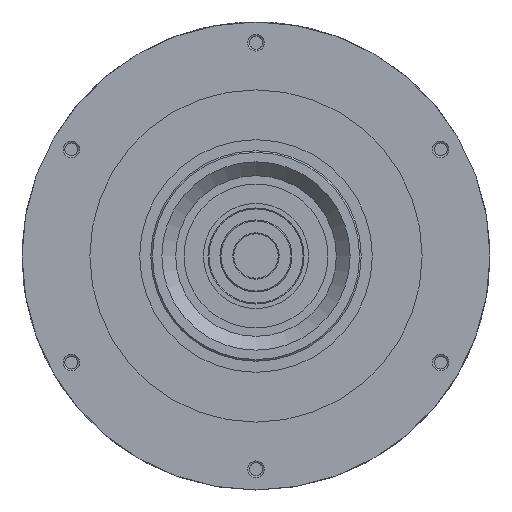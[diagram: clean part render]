
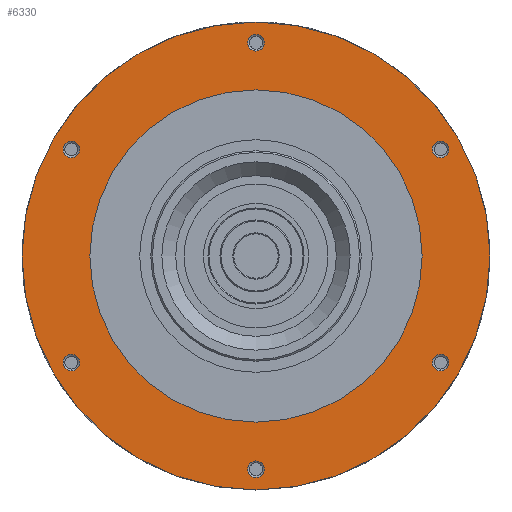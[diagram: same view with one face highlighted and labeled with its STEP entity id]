
A CAD part, left-side view. The second image highlights one B-rep face of the part: STEP entity #6330.
In plain terms, the highlighted planar face has unit normal (-1, 0, 0).
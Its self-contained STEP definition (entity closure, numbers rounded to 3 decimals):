
#6233=CARTESIAN_POINT('',(-50.8,83.373,-47.478));
#6234=VERTEX_POINT('',#6233);
#6235=CARTESIAN_POINT('',(-50.8,4.534,-26.353));
#6236=VERTEX_POINT('',#6235);
#6237=CARTESIAN_POINT('',(-50.8,41.123,-47.478));
#6238=DIRECTION('',(1.,0.,0.));
#6239=DIRECTION('',(0.,1.,0.));
#6240=AXIS2_PLACEMENT_3D('',#6237,#6238,#6239);
#6241=CIRCLE('',#6240,42.25);
#6242=EDGE_CURVE('',#6234,#6236,#6241,.T.);
#6243=ORIENTED_EDGE('',*,*,#6242,.F.);
#6244=EDGE_CURVE('',#6236,#6234,#6241,.T.);
#6245=ORIENTED_EDGE('',*,*,#6244,.F.);
#6246=EDGE_LOOP('',(#6243,#6245));
#6247=FACE_OUTER_BOUND('',#6246,.T.);
#6248=CARTESIAN_POINT('',(-50.8,75.215,-65.429));
#6249=VERTEX_POINT('',#6248);
#6250=CARTESIAN_POINT('',(-50.8,74.465,-66.728));
#6251=DIRECTION('',(1.,0.,0.));
#6252=DIRECTION('',(0.,0.5,0.866));
#6253=AXIS2_PLACEMENT_3D('',#6250,#6251,#6252);
#6254=CIRCLE('',#6253,1.5);
#6255=EDGE_CURVE('',#6249,#6249,#6254,.T.);
#6256=ORIENTED_EDGE('',*,*,#6255,.T.);
#6257=EDGE_LOOP('',(#6256));
#6258=FACE_BOUND('',#6257,.T.);
#6259=CARTESIAN_POINT('',(-50.8,8.531,-68.027));
#6260=VERTEX_POINT('',#6259);
#6261=CARTESIAN_POINT('',(-50.8,7.781,-66.728));
#6262=DIRECTION('',(1.,0.,0.));
#6263=DIRECTION('',(0.,0.5,-0.866));
#6264=AXIS2_PLACEMENT_3D('',#6261,#6262,#6263);
#6265=CIRCLE('',#6264,1.5);
#6266=EDGE_CURVE('',#6260,#6260,#6265,.T.);
#6267=ORIENTED_EDGE('',*,*,#6266,.T.);
#6268=EDGE_LOOP('',(#6267));
#6269=FACE_BOUND('',#6268,.T.);
#6270=CARTESIAN_POINT('',(-50.8,39.623,-8.978));
#6271=VERTEX_POINT('',#6270);
#6272=CARTESIAN_POINT('',(-50.8,41.123,-8.978));
#6273=DIRECTION('',(1.,0.,0.));
#6274=DIRECTION('',(0.,-1.,0.));
#6275=AXIS2_PLACEMENT_3D('',#6272,#6273,#6274);
#6276=CIRCLE('',#6275,1.5);
#6277=EDGE_CURVE('',#6271,#6271,#6276,.T.);
#6278=ORIENTED_EDGE('',*,*,#6277,.T.);
#6279=EDGE_LOOP('',(#6278));
#6280=FACE_BOUND('',#6279,.T.);
#6281=CARTESIAN_POINT('',(-50.8,71.123,-47.478));
#6282=VERTEX_POINT('',#6281);
#6283=CARTESIAN_POINT('',(-50.8,41.123,-47.478));
#6284=DIRECTION('',(1.,0.,0.));
#6285=DIRECTION('',(0.,1.,0.));
#6286=AXIS2_PLACEMENT_3D('',#6283,#6284,#6285);
#6287=CIRCLE('',#6286,30.);
#6288=EDGE_CURVE('',#6282,#6282,#6287,.T.);
#6289=ORIENTED_EDGE('',*,*,#6288,.T.);
#6290=EDGE_LOOP('',(#6289));
#6291=FACE_BOUND('',#6290,.T.);
#6292=CARTESIAN_POINT('',(-50.8,73.715,-26.929));
#6293=VERTEX_POINT('',#6292);
#6294=CARTESIAN_POINT('',(-50.8,74.465,-28.228));
#6295=DIRECTION('',(1.,0.,0.));
#6296=DIRECTION('',(0.,-0.5,0.866));
#6297=AXIS2_PLACEMENT_3D('',#6294,#6295,#6296);
#6298=CIRCLE('',#6297,1.5);
#6299=EDGE_CURVE('',#6293,#6293,#6298,.T.);
#6300=ORIENTED_EDGE('',*,*,#6299,.T.);
#6301=EDGE_LOOP('',(#6300));
#6302=FACE_BOUND('',#6301,.T.);
#6303=CARTESIAN_POINT('',(-50.8,7.031,-29.527));
#6304=VERTEX_POINT('',#6303);
#6305=CARTESIAN_POINT('',(-50.8,7.781,-28.228));
#6306=DIRECTION('',(1.,0.,0.));
#6307=DIRECTION('',(0.,-0.5,-0.866));
#6308=AXIS2_PLACEMENT_3D('',#6305,#6306,#6307);
#6309=CIRCLE('',#6308,1.5);
#6310=EDGE_CURVE('',#6304,#6304,#6309,.T.);
#6311=ORIENTED_EDGE('',*,*,#6310,.T.);
#6312=EDGE_LOOP('',(#6311));
#6313=FACE_BOUND('',#6312,.T.);
#6314=CARTESIAN_POINT('',(-50.8,42.623,-85.978));
#6315=VERTEX_POINT('',#6314);
#6316=CARTESIAN_POINT('',(-50.8,41.123,-85.978));
#6317=DIRECTION('',(1.,0.,0.));
#6318=DIRECTION('',(0.,1.,0.));
#6319=AXIS2_PLACEMENT_3D('',#6316,#6317,#6318);
#6320=CIRCLE('',#6319,1.5);
#6321=EDGE_CURVE('',#6315,#6315,#6320,.T.);
#6322=ORIENTED_EDGE('',*,*,#6321,.T.);
#6323=EDGE_LOOP('',(#6322));
#6324=FACE_BOUND('',#6323,.T.);
#6325=CARTESIAN_POINT('',(-50.8,77.248,-47.478));
#6326=DIRECTION('',(-1.,0.,0.));
#6327=DIRECTION('',(0.,-1.,0.));
#6328=AXIS2_PLACEMENT_3D('',#6325,#6326,#6327);
#6329=PLANE('',#6328);
#6330=ADVANCED_FACE('',(#6247,#6258,#6269,#6280,#6291,#6302,#6313,#6324),#6329,.T.);
